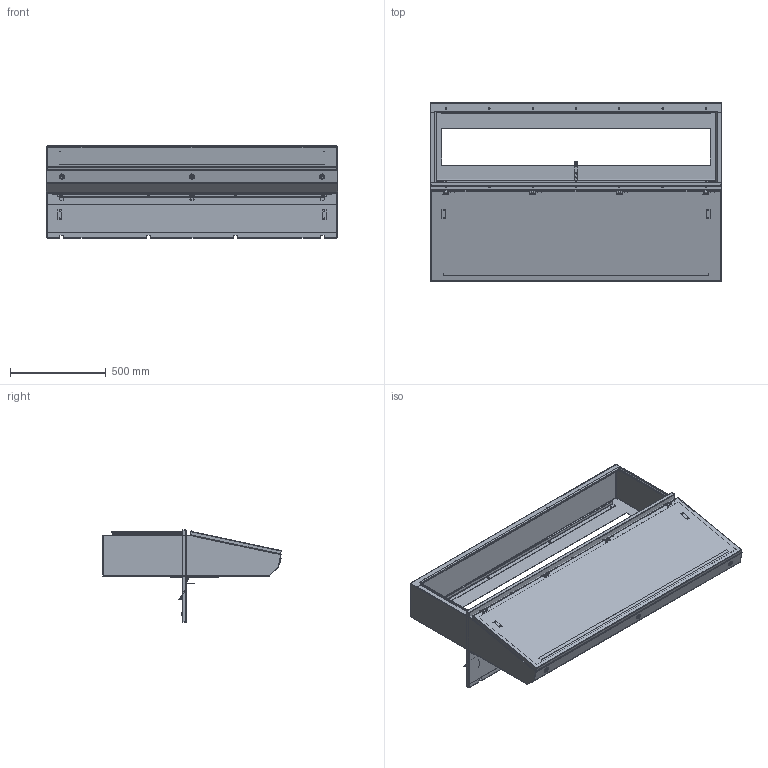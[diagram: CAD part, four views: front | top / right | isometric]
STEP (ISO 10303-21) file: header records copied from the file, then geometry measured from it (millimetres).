
FILE_DESCRIPTION( ( 'Unknown' ), '1' );
FILE_NAME( 'Q:/2000 SERIES/DESK UNITS/WEB DRAWINGS/STEP/2CSD86036.stp', 'Unknown', ( 'Unknown' ), ( 'Unknown' ), 'XStep 1.0', 'Unknown', ' ' );
FILE_SCHEMA( ( 'CONFIG_CONTROL_DESIGN' ) );
Length unit declared in the file: millimetre
Products named in the file (32): Assem1; Assem2; Assem3; Assem4; Assem5; Assem6; Assem7; Assem8; Assem9; 1; 2; 3; 4; 5; 6; 7; 8; 9; 10; 11; 12; 13; 14; 15; 16; 17; 18; 19; 20; 21; 22; 23
Bounding box: 1524 x 931.77 x 482.6 mm (x, y, z)
Volume: 18879012.1 mm3; surface area: 20629707.2 mm2
Topology: 129 solids, 129 shells, 3083 faces, 7686 edges, 4987 vertices
Faces by surface type: plane 2018, cylinder 868, bspline 84, cone 58, torus 45, sphere 10
Full cylindrical faces by diameter (mm): 3.175 x20, 4.648 x10, 4.763 x20, 4.801 x12, 5 x11, 5.537 x30, 5.969 x6, 6 x5, 6.096 x6, 6.299 x5, 6.35 x22, 7.137 x18, 7.925 x5, 7.938 x18, 8.331 x5, 9.804 x15, 9.83 x10, 9.931 x9, 10.312 x5, 11.1 x5, 12.7 x20, 12.751 x5, 13.335 x5, 15.875 x5, 16.002 x5, 17.45 x5, 19.5 x5, 19.939 x5, 25.4 x5
Entity records: 25237 total; most frequent: CARTESIAN_POINT 5433, DIRECTION 3755, ORIENTED_EDGE 3694, EDGE_CURVE 1847, LINE 1345, VECTOR 1345, VERTEX_POINT 1227, AXIS2_PLACEMENT_3D 1205
